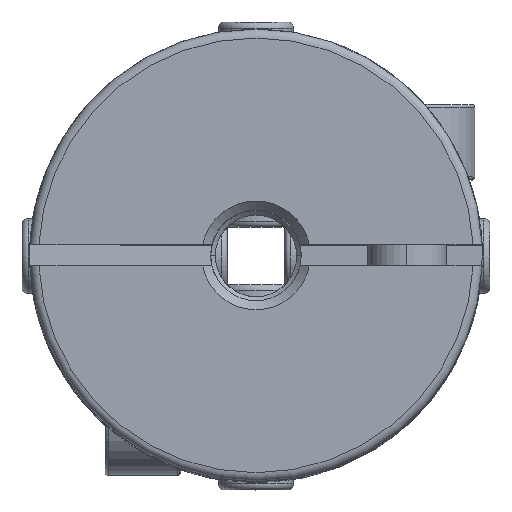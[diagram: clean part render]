
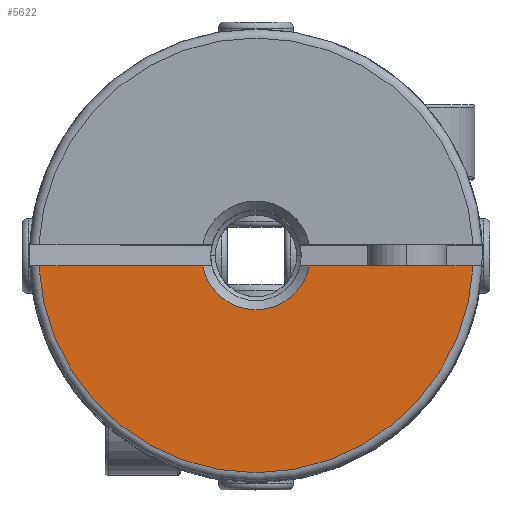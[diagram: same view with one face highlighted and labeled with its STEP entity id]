
A CAD part, top view. The second image highlights one B-rep face of the part: STEP entity #5622.
In plain terms, the highlighted planar face has unit normal (0, 0, 1).
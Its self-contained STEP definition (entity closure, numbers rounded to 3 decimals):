
#5261 = CARTESIAN_POINT ( 'NONE',  ( 0., 0., 12.1 ) ) ;
#5262 = DIRECTION ( 'NONE',  ( 0., 0., -1. ) ) ;
#5263 = DIRECTION ( 'NONE',  ( -1., 0., 0. ) ) ;
#5272 = CARTESIAN_POINT ( 'NONE',  ( 0., 0., 12.1 ) ) ;
#5273 = DIRECTION ( 'NONE',  ( 0., 0., 1. ) ) ;
#5274 = DIRECTION ( 'NONE',  ( -1., 0., 0. ) ) ;
#5276 = LINE ( 'NONE', #5277, #10793 ) ;
#5277 = CARTESIAN_POINT ( 'NONE',  ( 0., -0.35, 12.1 ) ) ;
#5278 = DIRECTION ( 'NONE',  ( 1., 0., 0. ) ) ;
#5279 = LINE ( 'NONE', #5280, #10795 ) ;
#5280 = CARTESIAN_POINT ( 'NONE',  ( 0., -0.35, 12.1 ) ) ;
#5281 = DIRECTION ( 'NONE',  ( 1., 0., 0. ) ) ;
#5622 = ADVANCED_FACE ( 'NONE', ( #10649 ), #9569, .T. ) ;
#5696 = EDGE_CURVE ( 'NONE', #12269, #12268, #7088, .T. ) ;
#5699 = EDGE_CURVE ( 'NONE', #12270, #12271, #7089, .T. ) ;
#5700 = EDGE_CURVE ( 'NONE', #12270, #12268, #5276, .T. ) ;
#5701 = EDGE_CURVE ( 'NONE', #12269, #12271, #5279, .T. ) ;
#6723 = ORIENTED_EDGE ( 'NONE', *, *, #5700, .F. ) ;
#6724 = ORIENTED_EDGE ( 'NONE', *, *, #5701, .F. ) ;
#6725 = ORIENTED_EDGE ( 'NONE', *, *, #5699, .T. ) ;
#6726 = ORIENTED_EDGE ( 'NONE', *, *, #5696, .T. ) ;
#7088 = CIRCLE ( 'NONE', #10792, 1.8 ) ;
#7089 = CIRCLE ( 'NONE', #10774, 7.2 ) ;
#8205 = CARTESIAN_POINT ( 'NONE',  ( -1.766, -0.35, 12.1 ) ) ;
#8206 = CARTESIAN_POINT ( 'NONE',  ( 1.766, -0.35, 12.1 ) ) ;
#8207 = CARTESIAN_POINT ( 'NONE',  ( -7.191, -0.35, 12.1 ) ) ;
#8208 = CARTESIAN_POINT ( 'NONE',  ( 7.191, -0.35, 12.1 ) ) ;
#8692 = EDGE_LOOP ( 'NONE', ( #6723, #6725, #6724, #6726 ) ) ;
#9569 = PLANE ( 'NONE',  #10652 ) ;
#9570 = CARTESIAN_POINT ( 'NONE',  ( 0., 0., 12.1 ) ) ;
#9571 = DIRECTION ( 'NONE',  ( 0., 0., 1. ) ) ;
#9572 = DIRECTION ( 'NONE',  ( -1., 0., 0. ) ) ;
#10649 = FACE_OUTER_BOUND ( 'NONE', #8692, .T. ) ;
#10652 = AXIS2_PLACEMENT_3D ( 'NONE', #9570, #9571, #9572 ) ;
#10774 = AXIS2_PLACEMENT_3D ( 'NONE', #5272, #5273, #5274 ) ;
#10792 = AXIS2_PLACEMENT_3D ( 'NONE', #5261, #5262, #5263 ) ;
#10793 = VECTOR ( 'NONE', #5278, 1000. ) ;
#10795 = VECTOR ( 'NONE', #5281, 1000. ) ;
#12268 = VERTEX_POINT ( 'NONE', #8205 ) ;
#12269 = VERTEX_POINT ( 'NONE', #8206 ) ;
#12270 = VERTEX_POINT ( 'NONE', #8207 ) ;
#12271 = VERTEX_POINT ( 'NONE', #8208 ) ;
